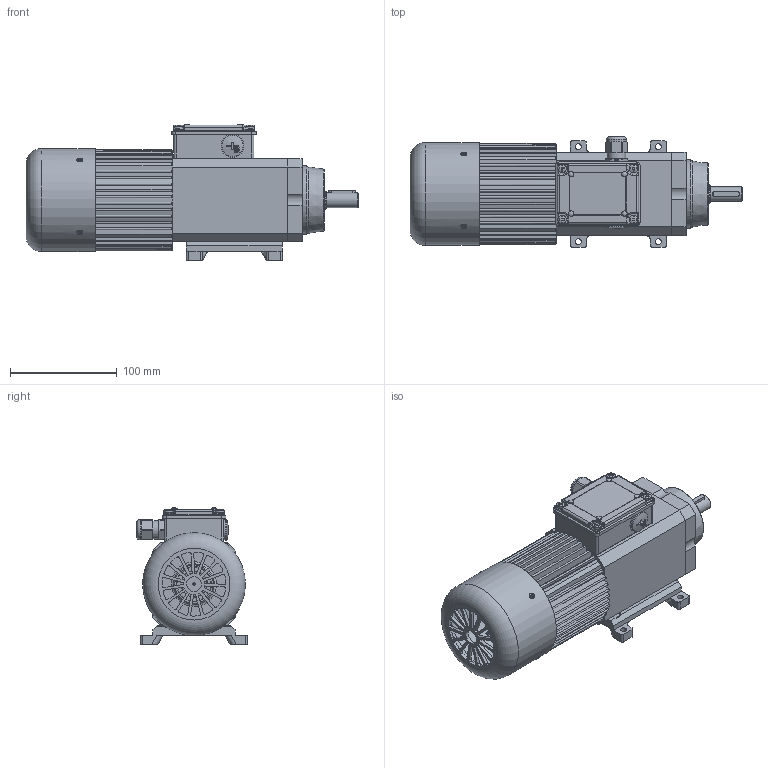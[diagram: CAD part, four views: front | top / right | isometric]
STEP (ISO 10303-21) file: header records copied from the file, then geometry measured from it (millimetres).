
FILE_DESCRIPTION(/* description */ (''),/* implementation_level */ '2;1');
FILE_NAME(/* name */ 'C:\Users\giuseppe.caruso.MINIMOTOR\Desktop\PA...M3 B3.stp',/* time_stamp */ '2014-09-11T15:42:58+02:00',/* author */ ('giuseppe.caruso'),/* organization */ (''),/* preprocessor_version */ 'ST-DEVELOPER v15.6',/* originating_system */ 'Autodesk Inventor 2015',/* authorisation */ '');
FILE_SCHEMA (('AUTOMOTIVE_DESIGN { 1 0 10303 214 3 1 1 }'));
Length unit declared in the file: millimetre
Products named in the file (38): ASF047; ASA017; VSE516; VTC410S; RIV014I; RST004; VTC406; VTC306; CHI005; VCE518; SPN010; VAF311; TPP001; BOC001; CUS017-9; CUS017-8; CUS017-7; CUS017-6; CUS017-5; CUS017-4; CUS017-2; CUS017-1; CUS017; ING224; OR001; OR013; SRD020; RAD010A; CPV020; CPR011; GRN012; CPB005A; TRG064; CPM005A; TRG001; PIE010; TPP009; PA 440M3T 10,27 B3
Bounding box: 311.5 x 103.8 x 128.17 mm (x, y, z)
Volume: 716298.2 mm3; surface area: 338461.7 mm2
Topology: 52 solids, 52 shells, 3173 faces, 8653 edges, 5652 vertices
Faces by surface type: cylinder 1487, plane 1269, cone 259, torus 96, bspline 44, sphere 18
Full cylindrical faces by diameter (mm): 1.6 x1, 1.7 x2, 2.459 x4, 2.5 x2, 2.7 x8, 2.729 x4, 2.9 x4, 3 x14, 3.242 x10, 3.25 x4, 3.4 x4, 3.8 x4, 4 x8, 4.134 x9, 4.3 x1, 4.5 x4, 5 x11, 5.1 x4, 5.3 x1, 5.5 x20, 6.647 x1, 7.6 x1, 8 x5, 8.4 x4, 8.5 x10, 9 x4, 9.64 x3, 10 x7, 11 x1, 12 x12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
Entity records: 98442 total; most frequent: CARTESIAN_POINT 28718, ORIENTED_EDGE 14788, DIRECTION 13174, EDGE_CURVE 7394, VERTEX_POINT 5006, AXIS2_PLACEMENT_3D 4989, EDGE_LOOP 3346, LINE 3196
